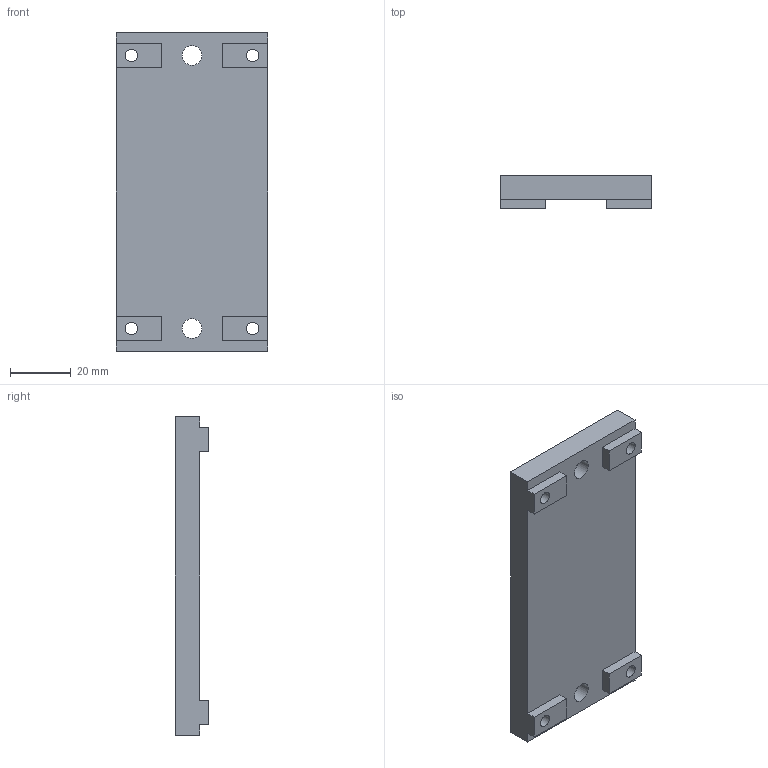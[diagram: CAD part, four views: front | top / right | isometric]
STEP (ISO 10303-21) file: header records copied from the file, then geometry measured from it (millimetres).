
FILE_DESCRIPTION(('STEP AP203'), '1');
FILE_NAME('ÒÏÏÔ1801.01.07.00.002 - Êðåïëåíèå ëèíåéíîãî ìîäóëÿ', '', ('UNSPECIFIED'), ('UNSPECIFIED'), 'C3D Converter', 'C3D Toolkit', '');
FILE_SCHEMA(('CONFIG_CONTROL_DESIGN'));
Length unit declared in the file: millimetre
Products named in the file (1): ТППФ1801.01.07.00.002
Bounding box: 50 x 11 x 105 mm (x, y, z)
Volume: 41948.4 mm3; surface area: 14113 mm2
Topology: 1 solids, 1 shells, 34 faces, 90 edges, 58 vertices
Faces by surface type: plane 22, cylinder 6, cone 6
Full cylindrical faces by diameter (mm): 4.134 x4, 6.5 x2
Entity records: 1320 total; most frequent: CARTESIAN_POINT 171, DIRECTION 166, ORIENTED_EDGE 156, EDGE_CURVE 78, LINE 60, VECTOR 60, EDGE_LOOP 58, VERTEX_POINT 58
